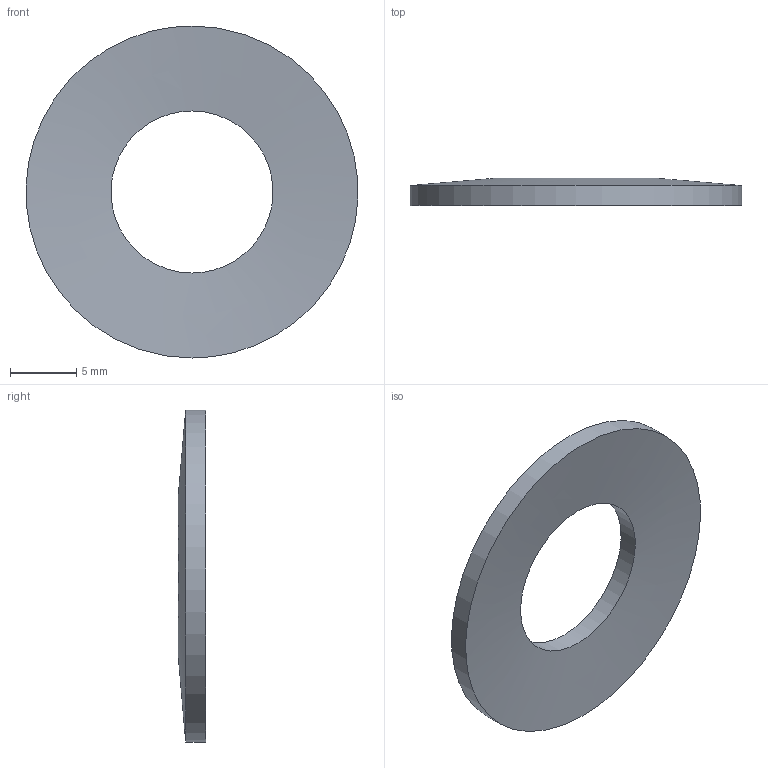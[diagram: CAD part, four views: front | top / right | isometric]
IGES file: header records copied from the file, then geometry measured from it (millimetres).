
Global section: file name: ST.0250.0122.0150; native system: Autodesk Inventor 2026; preprocessor: unknown; author: J. Iwanek; date: 20260918.102843; units: millimetre
Bounding box: 24.98 x 2.05 x 25 mm (x, y, z)
Volume: 563.2 mm3; surface area: 926.9 mm2
Topology: 1 solids, 1 shells, 4 faces, 12 edges, 8 vertices
Faces by surface type: bspline 4
